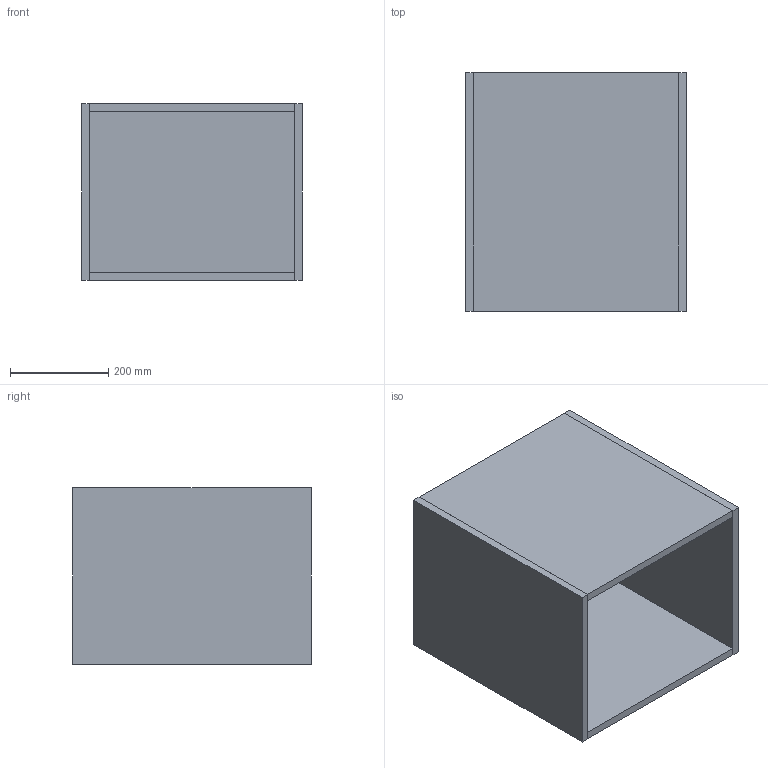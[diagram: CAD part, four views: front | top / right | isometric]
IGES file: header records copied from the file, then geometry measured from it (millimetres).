
Start section: Data from Parasolid IGES Translator 19.0.9, Copyright(c) 2006 Siemens PL M Software. All Rights Reserved.
Global section: file name: noorth-SI-H 36 D 51 W 45_8378.igs; native system: By Siemens PLM Incorporated; preprocessor: XPlus GENERIC/IGES 19.0.9; author: Noname; organization: Noname; date: 20200601.095802; units: metre
Bounding box: 450.01 x 486.06 x 360 mm (x, y, z)
Volume: 12493187.6 mm3; surface area: 1903150 mm2
Topology: 5 solids, 5 shells, 30 faces, 60 edges, 40 vertices
Faces by surface type: plane 30
